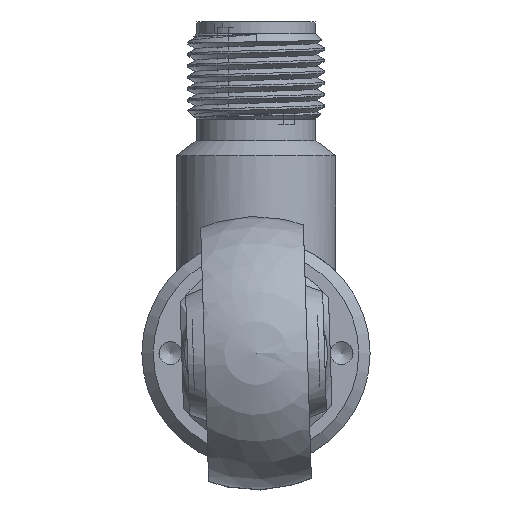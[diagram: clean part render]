
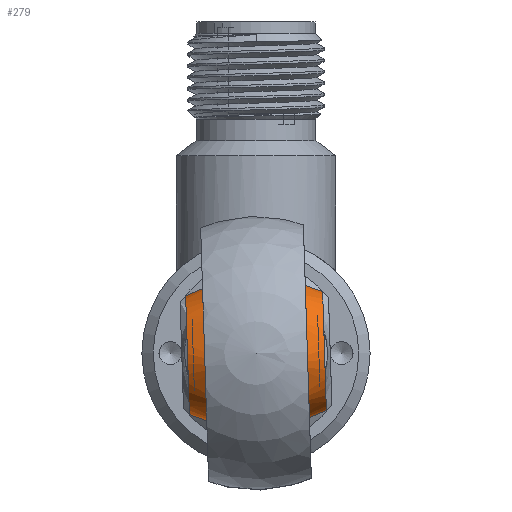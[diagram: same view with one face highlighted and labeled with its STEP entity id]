
A CAD part, left-side view. The second image highlights one B-rep face of the part: STEP entity #279.
In plain terms, the highlighted free-form (B-spline) face has degree [3, 3] with [4, 7] control points.
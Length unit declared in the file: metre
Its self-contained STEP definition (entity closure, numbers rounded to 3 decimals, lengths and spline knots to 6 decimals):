
#279 = ADVANCED_FACE( '', ( #593, #594 ), #595, .T. );
#593 = FACE_OUTER_BOUND( '', #1653, .T. );
#594 = FACE_OUTER_BOUND( '', #1654, .T. );
#595 = ( B_SPLINE_SURFACE( 3, 3, ( ( #1656, #1657, #1658, #1659, #1660, #1661, #1662 ), ( #1663, #1664, #1665, #1666, #1667, #1668, #1669 ), ( #1670, #1671, #1672, #1673, #1674, #1675, #1676 ), ( #1677, #1678, #1679, #1680, #1681, #1682, #1683 ) ), .UNSPECIFIED., .F., .T., .F. )B_SPLINE_SURFACE_WITH_KNOTS( ( 4, 4 ), ( 4, 3, 4 ), ( 0., 6.283185 ), ( -0.582914, 0., 0.582914 ), .UNSPECIFIED. )RATIONAL_B_SPLINE_SURFACE( ( ( 1., 0.333, 0.333, 1., 0.333, 0.333, 1. ), ( 0.89, 0.297, 0.297, 0.89, 0.297, 0.297, 0.89 ), ( 0.89, 0.297, 0.297, 0.89, 0.297, 0.297, 0.89 ), ( 1., 0.333, 0.333, 1., 0.333, 0.333, 1. ) ) )BOUNDED_SURFACE(  )REPRESENTATION_ITEM( '' )GEOMETRIC_REPRESENTATION_ITEM(  )SURFACE(  ) );
#1653 = EDGE_LOOP( '', ( #2850 ) );
#1654 = EDGE_LOOP( '', ( #2851 ) );
#1656 = CARTESIAN_POINT( '', ( -0.424857, 0.006021, 0.00058 ) );
#1657 = CARTESIAN_POINT( '', ( -0.423318, 0.005697, -0.0097 ) );
#1658 = CARTESIAN_POINT( '', ( -0.433603, 0.005648, -0.011239 ) );
#1659 = CARTESIAN_POINT( '', ( -0.435143, 0.005973, -0.000959 ) );
#1660 = CARTESIAN_POINT( '', ( -0.436682, 0.006297, 0.009322 ) );
#1661 = CARTESIAN_POINT( '', ( -0.426397, 0.006346, 0.01086 ) );
#1662 = CARTESIAN_POINT( '', ( -0.424857, 0.006021, 0.00058 ) );
#1663 = CARTESIAN_POINT( '', ( -0.42241, 0.002282, 0.001065 ) );
#1664 = CARTESIAN_POINT( '', ( -0.420138, 0.001803, -0.014107 ) );
#1665 = CARTESIAN_POINT( '', ( -0.435318, 0.001732, -0.016378 ) );
#1666 = CARTESIAN_POINT( '', ( -0.43759, 0.00221, -0.001206 ) );
#1667 = CARTESIAN_POINT( '', ( -0.439862, 0.002689, 0.013965 ) );
#1668 = CARTESIAN_POINT( '', ( -0.424682, 0.002761, 0.016236 ) );
#1669 = CARTESIAN_POINT( '', ( -0.42241, 0.002282, 0.001065 ) );
#1670 = CARTESIAN_POINT( '', ( -0.42241, -0.00221, 0.001206 ) );
#1671 = CARTESIAN_POINT( '', ( -0.420138, -0.002689, -0.013965 ) );
#1672 = CARTESIAN_POINT( '', ( -0.435318, -0.002761, -0.016236 ) );
#1673 = CARTESIAN_POINT( '', ( -0.43759, -0.002282, -0.001065 ) );
#1674 = CARTESIAN_POINT( '', ( -0.439862, -0.001803, 0.014107 ) );
#1675 = CARTESIAN_POINT( '', ( -0.424682, -0.001732, 0.016378 ) );
#1676 = CARTESIAN_POINT( '', ( -0.42241, -0.00221, 0.001206 ) );
#1677 = CARTESIAN_POINT( '', ( -0.424857, -0.005973, 0.000959 ) );
#1678 = CARTESIAN_POINT( '', ( -0.423318, -0.006297, -0.009322 ) );
#1679 = CARTESIAN_POINT( '', ( -0.433603, -0.006346, -0.01086 ) );
#1680 = CARTESIAN_POINT( '', ( -0.435143, -0.006021, -0.00058 ) );
#1681 = CARTESIAN_POINT( '', ( -0.436682, -0.005697, 0.0097 ) );
#1682 = CARTESIAN_POINT( '', ( -0.426397, -0.005648, 0.011239 ) );
#1683 = CARTESIAN_POINT( '', ( -0.424857, -0.005973, 0.000959 ) );
#2850 = ORIENTED_EDGE( '', *, *, #3521, .F. );
#2851 = ORIENTED_EDGE( '', *, *, #3522, .T. );
#3521 = EDGE_CURVE( '', #4173, #4173, #4174, .T. );
#3522 = EDGE_CURVE( '', #4175, #4175, #4176, .T. );
#4173 = VERTEX_POINT( '', #7051 );
#4174 = CIRCLE( '', #7052, 0.0052 );
#4175 = VERTEX_POINT( '', #7053 );
#4176 = CIRCLE( '', #7054, 0.0052 );
#7051 = CARTESIAN_POINT( '', ( -0.424857, 0.006021, 0.00058 ) );
#7052 = AXIS2_PLACEMENT_3D( '', #9393, #9394, #9395 );
#7053 = CARTESIAN_POINT( '', ( -0.424857, -0.005973, 0.000959 ) );
#7054 = AXIS2_PLACEMENT_3D( '', #9396, #9397, #9398 );
#9393 = CARTESIAN_POINT( '', ( -0.43, 0.005997, -0.000189 ) );
#9394 = DIRECTION( '', ( 0., 1., -0.032 ) );
#9395 = DIRECTION( '', ( 0.989, 0.005, 0.148 ) );
#9396 = CARTESIAN_POINT( '', ( -0.43, -0.005997, 0.000189 ) );
#9397 = DIRECTION( '', ( 0., 1., -0.032 ) );
#9398 = DIRECTION( '', ( 0.989, 0.005, 0.148 ) );
